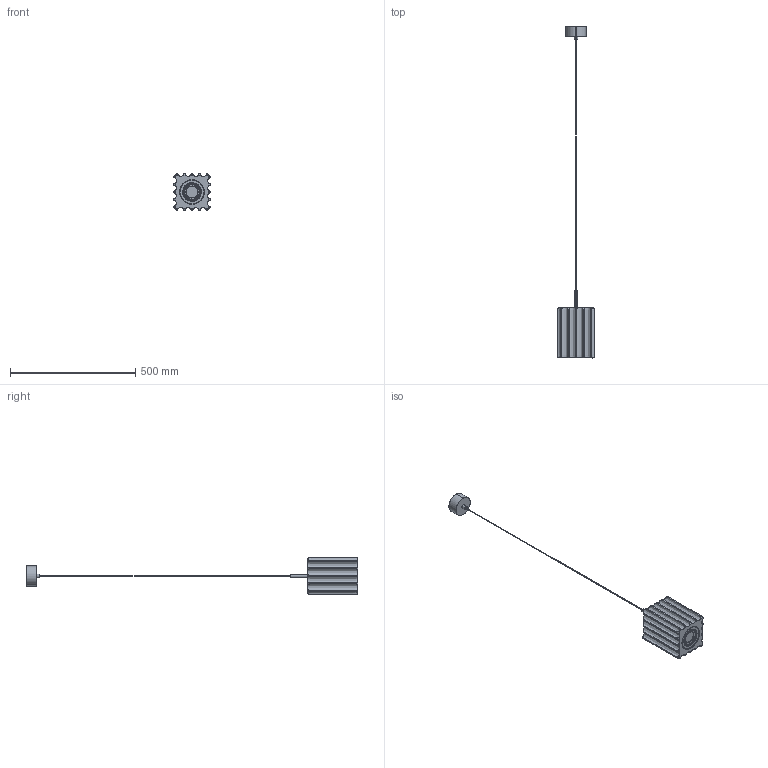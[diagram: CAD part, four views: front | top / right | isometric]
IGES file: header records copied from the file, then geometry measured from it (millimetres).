
Start section: SolidWorks IGES file using analytic representation for surfaces
Global section: file name: C:\Users\Agustin\Desktop\ENERO 2025\DENA CUADRADA\PIRE_C1090_L.IGS; native system: SolidWorks 2018; preprocessor: SolidWorks 2018; author: Agustin; date: 250305.175104; units: millimetre
Bounding box: 151 x 1325 x 151 mm (x, y, z)
Surface area: 314382.3 mm2 (no closed solid volume)
Topology: 0 solids, 0 shells, 135 faces, 3976 edges, 3976 vertices
Faces by surface type: revolution 90, bspline 45
